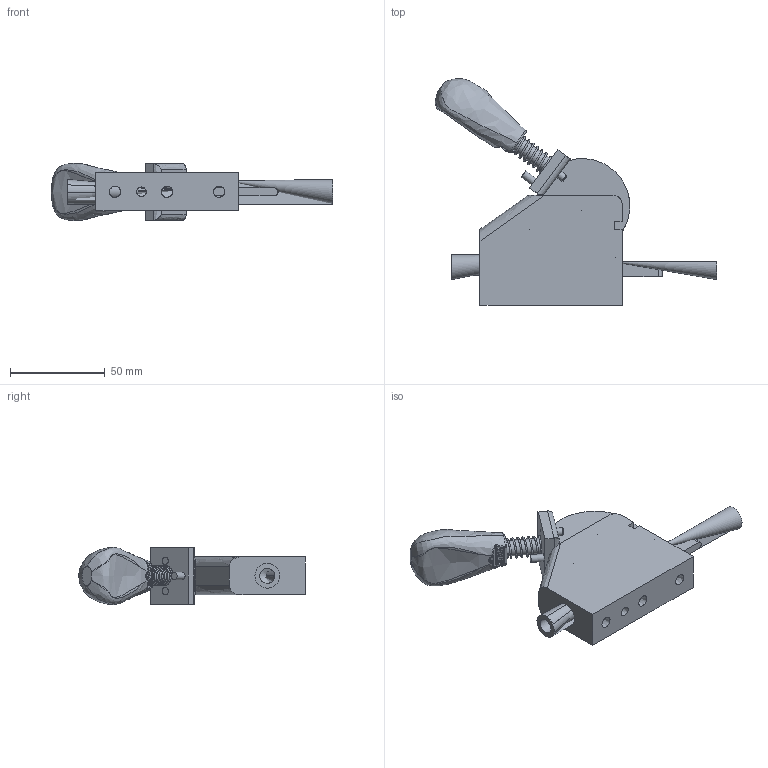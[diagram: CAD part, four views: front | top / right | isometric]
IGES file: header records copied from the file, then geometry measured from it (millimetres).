
Global section: file name: YSP-50ST-L-UNCLAMP; native system: Autodesk Inventor 2019; preprocessor: unknown; author: 桶田 勝弘,,  11,0; organization: 20180111.003651; date: 20240515.080421; units: millimetre
Bounding box: 148.69 x 119.45 x 30.18 mm (x, y, z)
Volume: 105377.9 mm3; surface area: 42533.1 mm2
Topology: 10 solids, 10 shells, 234 faces, 639 edges, 423 vertices
Faces by surface type: bspline 234
